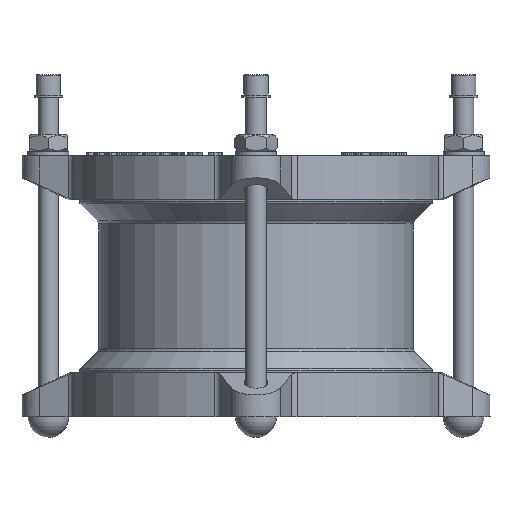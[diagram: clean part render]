
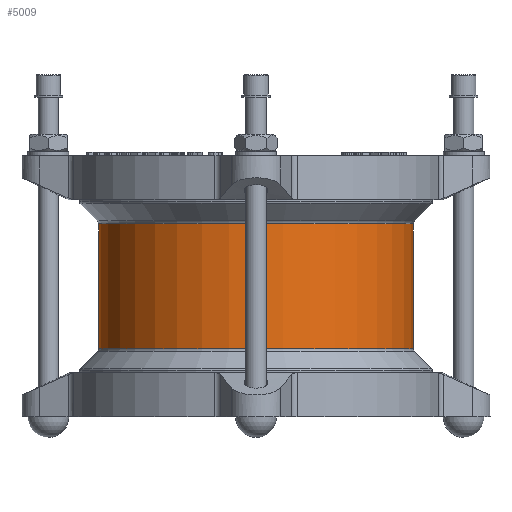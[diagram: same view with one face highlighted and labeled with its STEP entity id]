
A CAD part, front view. The second image highlights one B-rep face of the part: STEP entity #5009.
In plain terms, the highlighted cylindrical face has radius 92.5 mm (diameter 185 mm), a full revolution.
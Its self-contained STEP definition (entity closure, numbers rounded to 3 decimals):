
#5009=ADVANCED_FACE('',(#9323,#9325),#9327,.T.);
#9323=FACE_OUTER_BOUND('',#9324,.T.);
#9324=EDGE_LOOP('',(#13819));
#9325=FACE_OUTER_BOUND('',#9326,.T.);
#9326=EDGE_LOOP('',(#13820));
#9327=CYLINDRICAL_SURFACE('',#9328,92.5);
#9328=AXIS2_PLACEMENT_3D('',#9329,#9330,#9331);
#9329=CARTESIAN_POINT('',(0.,0.,37.714));
#9330=DIRECTION('',(0.,0.,-1.));
#9331=DIRECTION('',(0.,1.,0.));
#13819=ORIENTED_EDGE('',*,*,#15792,.T.);
#13820=ORIENTED_EDGE('',*,*,#15793,.F.);
#15792=EDGE_CURVE('',#18429,#18429,#18430,.T.);
#15793=EDGE_CURVE('',#18431,#18431,#18432,.T.);
#18429=VERTEX_POINT('',#26787);
#18430=CIRCLE('',#26788,92.5);
#18431=VERTEX_POINT('',#26792);
#18432=CIRCLE('',#26793,92.5);
#26787=CARTESIAN_POINT('',(0.,92.5,36.679));
#26788=AXIS2_PLACEMENT_3D('',#26789,#26790,#26791);
#26789=CARTESIAN_POINT('',(0.,0.,36.679));
#26790=DIRECTION('',(0.,0.,-1.));
#26791=DIRECTION('',(0.,1.,0.));
#26792=CARTESIAN_POINT('',(0.,92.5,-36.679));
#26793=AXIS2_PLACEMENT_3D('',#26794,#26795,#26796);
#26794=CARTESIAN_POINT('',(0.,0.,-36.679));
#26795=DIRECTION('',(0.,0.,-1.));
#26796=DIRECTION('',(0.,1.,0.));
